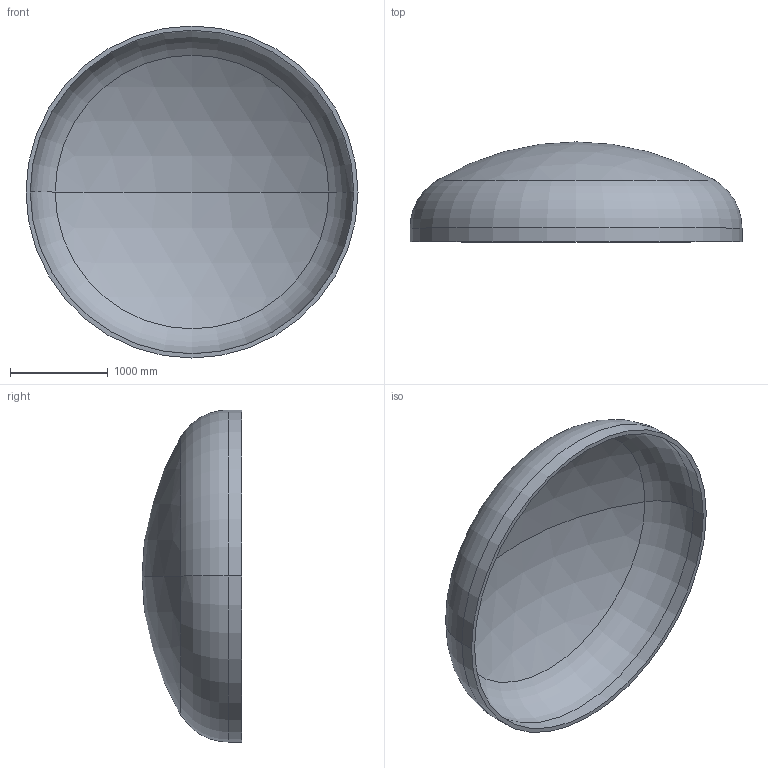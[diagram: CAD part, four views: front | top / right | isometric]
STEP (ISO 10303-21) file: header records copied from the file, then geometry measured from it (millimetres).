
FILE_DESCRIPTION (( 'STEP AP203' ), '1' );
FILE_NAME ('DIN 28013 Korbbogenform_-_Boden DIN 28013 - 3400 x 140 - I - s=44.step', '2016-07-01T19:31:45', ( '' ), ( '' ), 'SwSTEP 2.0', 'SolidWorks 2013', '' );
FILE_SCHEMA (( 'CONFIG_CONTROL_DESIGN' ));
Length unit declared in the file: millimetre
Products named in the file (1): DIN 28013 Korbbogenform_-_Boden DIN 28013 - 3400 x 140 - I - s=44
Bounding box: 3400 x 1022.81 x 3400 mm (x, y, z)
Volume: 609129532.3 mm3; surface area: 28155651.2 mm2
Topology: 1 solids, 1 shells, 13 faces, 24 edges, 14 vertices
Faces by surface type: torus 4, cylinder 4, sphere 4, plane 1
Entity records: 407 total; most frequent: DIRECTION 72, CARTESIAN_POINT 52, ORIENTED_EDGE 48, AXIS2_PLACEMENT_3D 34, EDGE_CURVE 24, CIRCLE 20, EDGE_LOOP 14, VERTEX_POINT 14
